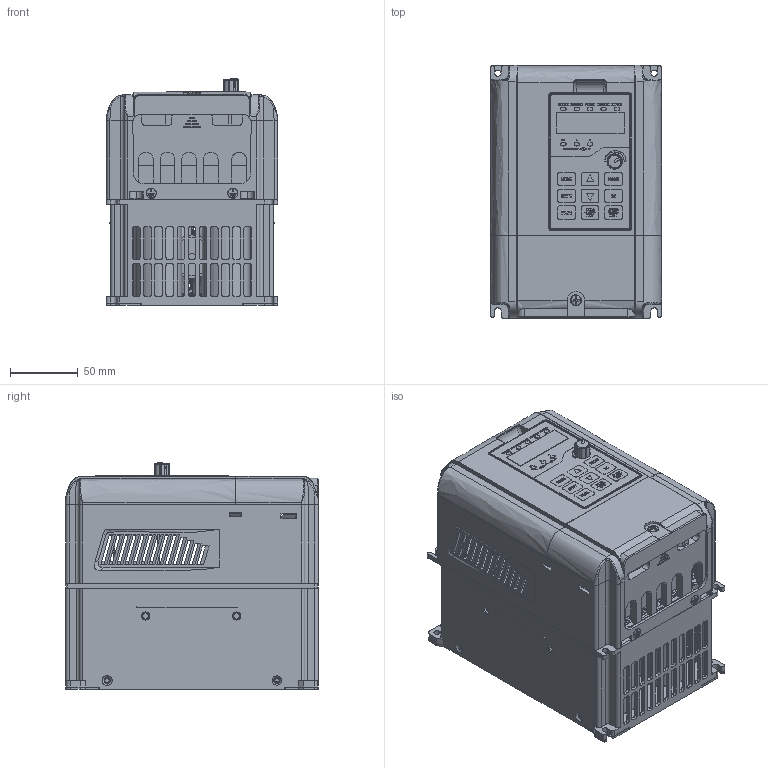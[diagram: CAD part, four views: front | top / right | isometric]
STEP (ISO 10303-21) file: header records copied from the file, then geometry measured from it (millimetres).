
FILE_DESCRIPTION (( 'STEP AP214' ), '1' );
FILE_NAME ('00-KC200-3.7KW-蚾饜軞傖 .STEP', '2024-05-28T08:51:54', ( '' ), ( '' ), 'SwSTEP 2.0', 'SolidWorks 2020', '' );
FILE_SCHEMA (( 'AUTOMOTIVE_DESIGN' ));
Length unit declared in the file: millimetre
Products named in the file (1): 00-KC200-3.7KW-蚾饜軞傖 
Bounding box: 126 x 186.2 x 166.9 mm (x, y, z)
Surface area: 360554.6 mm2 (no closed solid volume)
Topology: 0 solids, 101 shells, 2053 faces, 10535 edges, 8368 vertices
Faces by surface type: plane 1148, cylinder 593, bspline 275, cone 37
Entity records: 146730 total; most frequent: CARTESIAN_POINT 47137, ORIENTED_EDGE 14764, DIRECTION 13512, EDGE_CURVE 10527, VERTEX_POINT 8368, VECTOR 7444, LINE 7444, AXIS2_PLACEMENT_3D 3034
